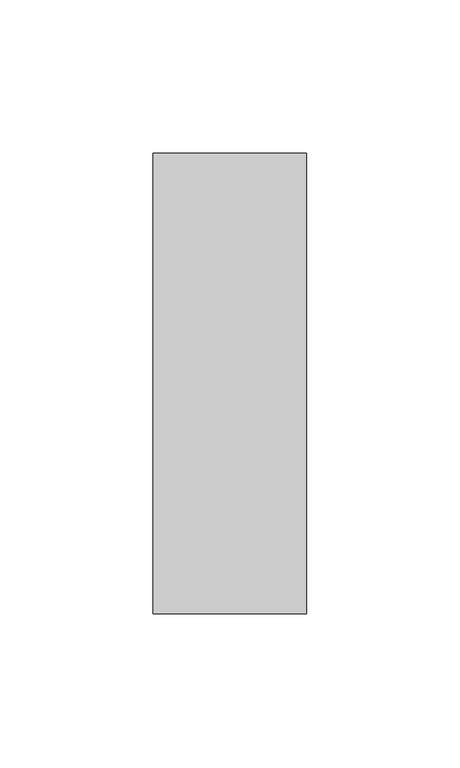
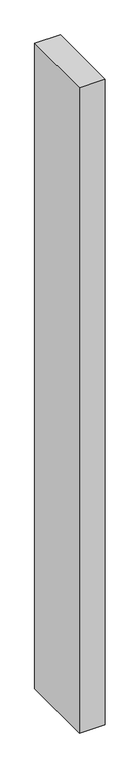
"""IFC4 building model written with IfcOpenShell, lengths in millimetres: member geometry, Прямоугольный импост : 50 x 150 мм."""

from ifc_helpers import new_model, si_unit, frame, origin, place, context, project, spatial, polyline, outline, extrude, source, transform, mapped, element, save


def member_e227d75a(model_context):
    return source(origin(), model_context, "Body", "SweptSolid", [
        extrude(outline(polyline([(25.0, 75.0), (25.0, -75.0), (-25.0, -75.0), (-25.0, 75.0), (25.0, 75.0)])), frame((0.0, 0.0, -1320.4705479), z_axis=(0.0, 0.0, 1.0), x_axis=(1.0, 0.0, 0.0)), (0.0, 0.0, 1.0), 1320.4705479),
    ])


if __name__ == "__main__":
    model = new_model("IFC4")
    model_context = context("Model", 3, world=origin())
    ifc_project = project(units=[si_unit("LENGTHUNIT", "METRE", prefix="MILLI")], contexts=[model_context])
    site = spatial("IfcSite", under=ifc_project)
    building = spatial("IfcBuilding", under=site)
    placement = place(None, origin())
    member_shape = member_e227d75a(model_context)
    element("IfcMember", 1, ObjectType="Прямоугольный импост : 50 x 150 мм", at=placement, inside=building, context=model_context, shape_type="MappedRepresentation", body=[
        mapped(member_shape, transform((0.0, 0.0, 0.0), x_axis=(1.0, 0.0, 0.0), y_axis=(0.0, 1.0, 0.0), z_axis=(0.0, 0.0, 1.0))),
    ])
    save(model, "model.ifc")
